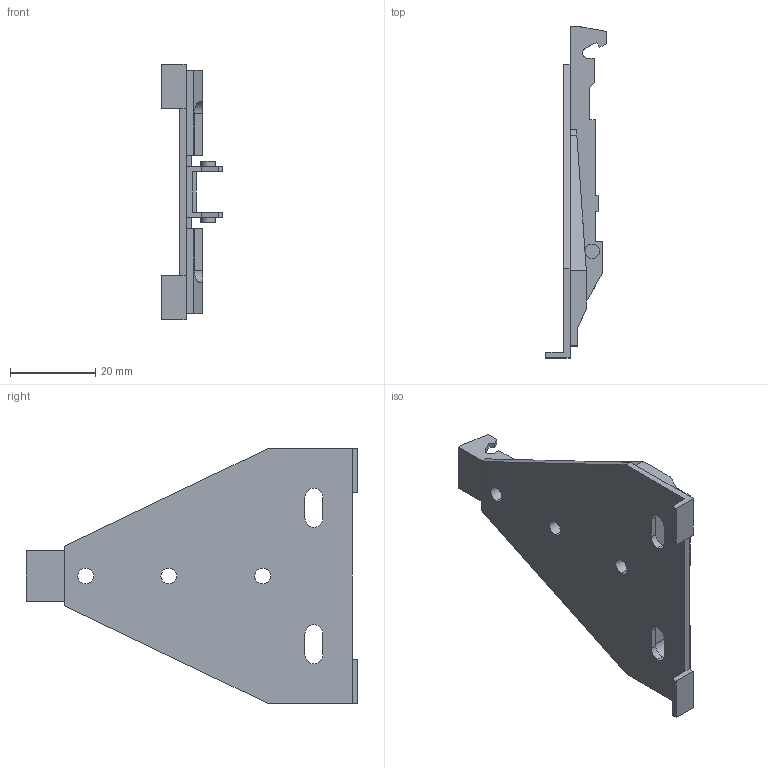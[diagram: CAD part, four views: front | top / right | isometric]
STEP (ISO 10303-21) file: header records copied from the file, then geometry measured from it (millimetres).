
FILE_DESCRIPTION (( 'STEP AP214' ), '1' );
FILE_NAME ('Eco Delta Spax_H -0,5.step', '2010-11-18T10:12:07', ( 'grass' ), ( '' ), 'SwSTEP 2.0', 'SolidWorks 2010', '' );
FILE_SCHEMA (( 'AUTOMOTIVE_DESIGN' ));
Length unit declared in the file: millimetre
Products named in the file (1): Eco Delta Spax_H -0,5
Bounding box: 14.2 x 77.75 x 60 mm (x, y, z)
Volume: 10717.9 mm3; surface area: 8790.2 mm2
Topology: 1 solids, 1 shells, 122 faces, 350 edges, 232 vertices
Faces by surface type: plane 97, cylinder 25
Entity records: 4003 total; most frequent: CARTESIAN_POINT 720, ORIENTED_EDGE 700, DIRECTION 638, EDGE_CURVE 350, LINE 298, VECTOR 298, VERTEX_POINT 232, AXIS2_PLACEMENT_3D 170
